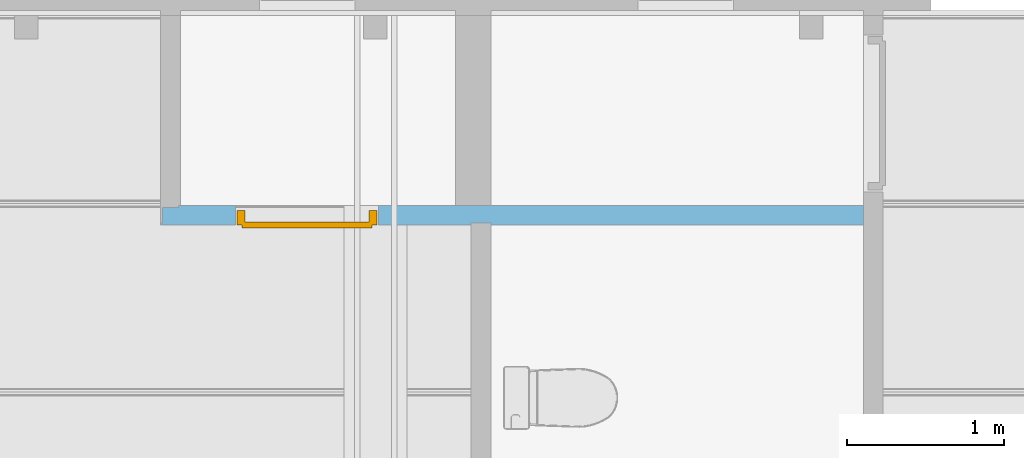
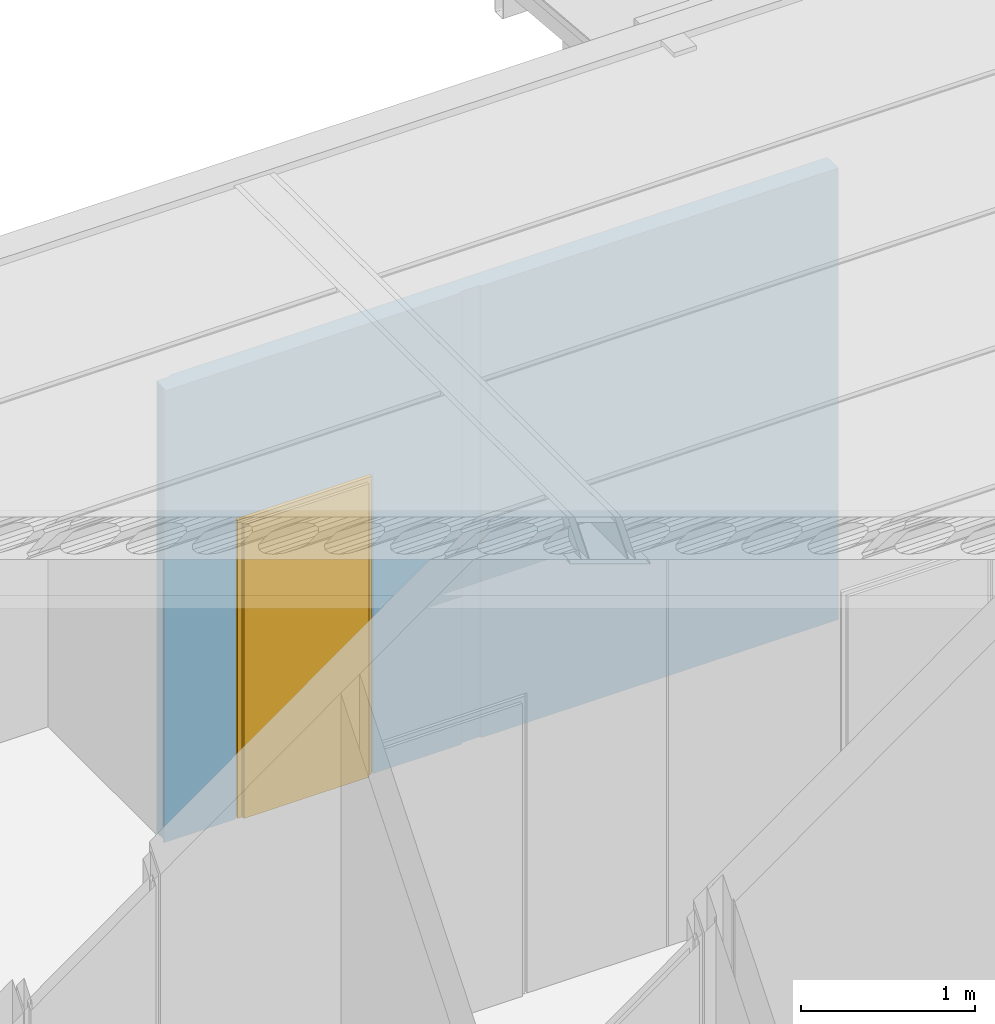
# One storey, part 32 of 45: 1 door, 1 opening, plus 1 element that does not belong to this part.
"""IFC2X3 building model written with IfcOpenShell, lengths in millimetres."""

from ifc_helpers import new_model, entity, si_unit, converted_unit, frame, frame_2d, origin, origin_with_axes, place, context, subcontext, project, spatial, polyline, rectangle, outline, extrude, faceted_brep, material, layer, layer_set, layer_usage, type_object, element, fill, save


model = new_model("IFC2X3")

# Units and contexts
model_context = context("Model", 3, precision=1e-05, world=origin())
plan_context = context("Plan", 3, precision=1e-05, world=origin())
body_context = subcontext(model_context, "Body", "Model", "MODEL_VIEW")
ifc_project = project(units=[si_unit("LENGTHUNIT", "METRE", prefix="MILLI"), converted_unit("PLANEANGLEUNIT", "DEGREE", entity("IfcPlaneAngleMeasure", 0.0174532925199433), si_unit("PLANEANGLEUNIT", "RADIAN"), dimensions=[0, 0, 0, 0, 0, 0, 0]), si_unit("AREAUNIT", "SQUARE_METRE"), si_unit("VOLUMEUNIT", "CUBIC_METRE")], contexts=[model_context, plan_context])

# Building, storey
building_placement = place(None, origin())
building = spatial("IfcBuilding", under=ifc_project, at=building_placement, Name="HEKF Administrasjonbygg", CompositionType="ELEMENT")
storey_placement = place(building_placement, frame((0.0, 0.0, 6500.0), z_axis=(0.0, 0.0, 1.0), x_axis=(1.0, 0.0, 0.0)))
storey = spatial("IfcBuildingStorey", under=building, at=storey_placement, Name="Plan 1", CompositionType="ELEMENT", Elevation=6500.0)

# Wall, opening, door
ifc_material_1 = material(Name="gips")
ifc_layer_1 = layer(ifc_material_1, 13.0)
ifc_material_2 = material(Name="riegel stål 100")
ifc_layer_2 = layer(ifc_material_2, 100.0)
ifc_material_3 = material(Name="gips")
ifc_layer_3 = layer(ifc_material_3, 13.0)
ifc_layer_set = layer_set([ifc_layer_1, ifc_layer_2, ifc_layer_3])
ifc_layer_usage = layer_usage(ifc_layer_set, "AXIS2", "POSITIVE", -13.0)
wall_placement = place(storey_placement, frame((20855.20588481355, -1337.0, 0.0), z_axis=(0.0, 0.0, 1.0), x_axis=(1.0, -1.015666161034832e-16, 0.0)))
wall = element("IfcWallStandardCase", 1, at=wall_placement, inside=storey, material=ifc_layer_usage, context=body_context, shape_type="SweptSolid", body=[
    extrude(outline(polyline([(113.0, 126.0), (113.0, 113.0), (12.99999999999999, 113.0), (13.0, 13.0), (-1.320366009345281e-15, 13.0), (0.0, 0.0), (1977.330921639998, -2.654286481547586e-14), (1977.330921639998, 12.99999999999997), (2103.330921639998, 12.99999999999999), (2103.330921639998, -1.374547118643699e-14), (4477.330921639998, 0.0), (4477.330921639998, 126.0), (113.0, 126.0)])), origin_with_axes(), (0.0, 0.0, 1.0), 3170.0),
])
opening_placement = place(wall_placement, frame((477.6137223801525, 0.0, 0.0), z_axis=(0.0, 1.0, 0.0), x_axis=(0.0, 0.0, 1.0)))
opening = element("IfcOpeningElement", 2, at=opening_placement, cuts=wall, Name="Door opening", ObjectType="Opening", context=body_context, shape_type="SweptSolid", body=[
    extrude(rectangle(XDim=2110.0, YDim=910.0, at=frame_2d((1055.0, 455.0), x_axis=(1.0, 0.0))), origin_with_axes(), (0.0, 0.0, 1.0), 126.0000000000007),
])
ifc_material_4 = material()
door_style = type_object("IfcDoorStyle", Name="D029", ConstructionType="NOTDEFINED", OperationType="USERDEFINED", ParameterTakesPrecedence=False, Sizeable=False)
door_placement = place(opening_placement, frame((0.0, 0.0, 0.0), z_axis=(1.0, 0.0, 0.0), x_axis=(0.0, 1.0, 0.0)))
door = element("IfcDoor", 3, at=door_placement, inside=storey, type_object=door_style, material=ifc_material_4, Name="D029", OverallHeight=2110.0, OverallWidth=910.0, context=body_context, shape_type="Brep", body=[
    faceted_brep([(900.0, 0.9999999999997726, 2090.0), (900.0, 0.9999999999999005, -2.816687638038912e-15), (850.0, 0.9999999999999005, -2.816687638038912e-15), (850.0, 0.9999999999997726, 2090.0), (900.0, 93.00000000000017, 2.816687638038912e-15), (900.0, 93.00000000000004, 2090.0), (850.0, 93.00000000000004, 2090.0), (850.0, 93.00000000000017, 2.816687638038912e-15), (900.0, 0.9999999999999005, -2.816687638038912e-15), (900.0, 0.9999999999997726, 2090.0), (900.0, 93.00000000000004, 2090.0), (900.0, 93.00000000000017, 2.816687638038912e-15), (850.0, 0.9999999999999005, -2.816687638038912e-15), (900.0, 0.9999999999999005, -2.816687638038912e-15), (900.0, 93.00000000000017, 2.816687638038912e-15), (850.0, 93.00000000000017, 2.816687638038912e-15), (850.0, 0.9999999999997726, 2090.0), (850.0, 0.9999999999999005, -2.816687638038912e-15), (850.0, 93.00000000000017, 2.816687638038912e-15), (850.0, 93.00000000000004, 2090.0), (900.0, 0.9999999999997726, 2090.0), (850.0, 0.9999999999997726, 2090.0), (850.0, 93.00000000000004, 2090.0), (900.0, 93.00000000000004, 2090.0)], [[[0, 1, 2, 3]], [[4, 5, 6, 7]], [[8, 9, 10, 11]], [[12, 13, 14, 15]], [[16, 17, 18, 19]], [[20, 21, 22, 23]]], orient=[[False], [False], [False], [False], [False], [False]]),
    faceted_brep([(60.0, 0.9999999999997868, 2090.0), (60.0, 0.9999999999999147, -2.816687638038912e-15), (10.0, 0.9999999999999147, -2.816687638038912e-15), (10.0, 0.9999999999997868, 2090.0), (60.0, 93.00000000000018, 2.816687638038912e-15), (60.0, 93.00000000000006, 2090.0), (10.0, 93.00000000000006, 2090.0), (10.0, 93.00000000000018, 2.816687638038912e-15), (60.0, 0.9999999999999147, -2.816687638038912e-15), (60.0, 0.9999999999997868, 2090.0), (60.0, 93.00000000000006, 2090.0), (60.0, 93.00000000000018, 2.816687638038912e-15), (10.0, 0.9999999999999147, -2.816687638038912e-15), (60.0, 0.9999999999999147, -2.816687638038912e-15), (60.0, 93.00000000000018, 2.816687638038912e-15), (10.0, 93.00000000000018, 2.816687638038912e-15), (10.0, 0.9999999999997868, 2090.0), (10.0, 0.9999999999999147, -2.816687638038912e-15), (10.0, 93.00000000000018, 2.816687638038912e-15), (10.0, 93.00000000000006, 2090.0), (60.0, 0.9999999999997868, 2090.0), (10.0, 0.9999999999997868, 2090.0), (10.0, 93.00000000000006, 2090.0), (60.0, 93.00000000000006, 2090.0)], [[[0, 1, 2, 3]], [[4, 5, 6, 7]], [[8, 9, 10, 11]], [[12, 13, 14, 15]], [[16, 17, 18, 19]], [[20, 21, 22, 23]]], orient=[[False], [False], [False], [False], [False], [False]]),
    faceted_brep([(850.0, 0.9999999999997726, 2090.0), (850.0, 0.9999999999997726, 2040.0), (60.00000000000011, 0.9999999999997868, 2040.0), (60.00000000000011, 0.9999999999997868, 2090.0), (850.0, 93.00000000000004, 2040.0), (850.0, 93.00000000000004, 2090.0), (60.00000000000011, 93.00000000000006, 2090.0), (60.00000000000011, 93.00000000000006, 2040.0), (850.0, 0.9999999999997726, 2040.0), (850.0, 0.9999999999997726, 2090.0), (850.0, 93.00000000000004, 2090.0), (850.0, 93.00000000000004, 2040.0), (60.00000000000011, 0.9999999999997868, 2040.0), (850.0, 0.9999999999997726, 2040.0), (850.0, 93.00000000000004, 2040.0), (60.00000000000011, 93.00000000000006, 2040.0), (60.00000000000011, 0.9999999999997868, 2090.0), (60.00000000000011, 0.9999999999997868, 2040.0), (60.00000000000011, 93.00000000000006, 2040.0), (60.00000000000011, 93.00000000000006, 2090.0), (850.0, 0.9999999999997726, 2090.0), (60.00000000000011, 0.9999999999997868, 2090.0), (60.00000000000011, 93.00000000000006, 2090.0), (850.0, 93.00000000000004, 2090.0)], [[[0, 1, 2, 3]], [[4, 5, 6, 7]], [[8, 9, 10, 11]], [[12, 13, 14, 15]], [[16, 17, 18, 19]], [[20, 21, 22, 23]]], orient=[[False], [False], [False], [False], [False], [False]]),
    faceted_brep([(870.0, -19.00000000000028, 2060.0), (870.0, -19.00000000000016, -4.041334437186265e-15), (40.0, -19.00000000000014, -4.041334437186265e-15), (40.0, -19.00000000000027, 2060.0), (870.0, 20.99999999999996, -1.592040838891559e-15), (870.0, 20.99999999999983, 2060.0), (40.0, 20.99999999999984, 2060.0), (40.0, 20.99999999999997, -1.592040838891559e-15), (870.0, -19.00000000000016, -4.041334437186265e-15), (870.0, -19.00000000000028, 2060.0), (870.0, 20.99999999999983, 2060.0), (870.0, 20.99999999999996, -1.592040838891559e-15), (40.0, -19.00000000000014, -4.041334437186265e-15), (870.0, -19.00000000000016, -4.041334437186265e-15), (870.0, 20.99999999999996, -1.592040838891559e-15), (40.0, 20.99999999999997, -1.592040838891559e-15), (40.0, -19.00000000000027, 2060.0), (40.0, -19.00000000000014, -4.041334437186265e-15), (40.0, 20.99999999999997, -1.592040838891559e-15), (40.0, 20.99999999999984, 2060.0), (870.0, -19.00000000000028, 2060.0), (40.0, -19.00000000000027, 2060.0), (40.0, 20.99999999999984, 2060.0), (870.0, 20.99999999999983, 2060.0)], [[[0, 1, 2, 3]], [[4, 5, 6, 7]], [[8, 9, 10, 11]], [[12, 13, 14, 15]], [[16, 17, 18, 19]], [[20, 21, 22, 23]]], orient=[[False], [False], [False], [False], [False], [False]]),
])
fill(opening, door)

save(model, "model.ifc")
